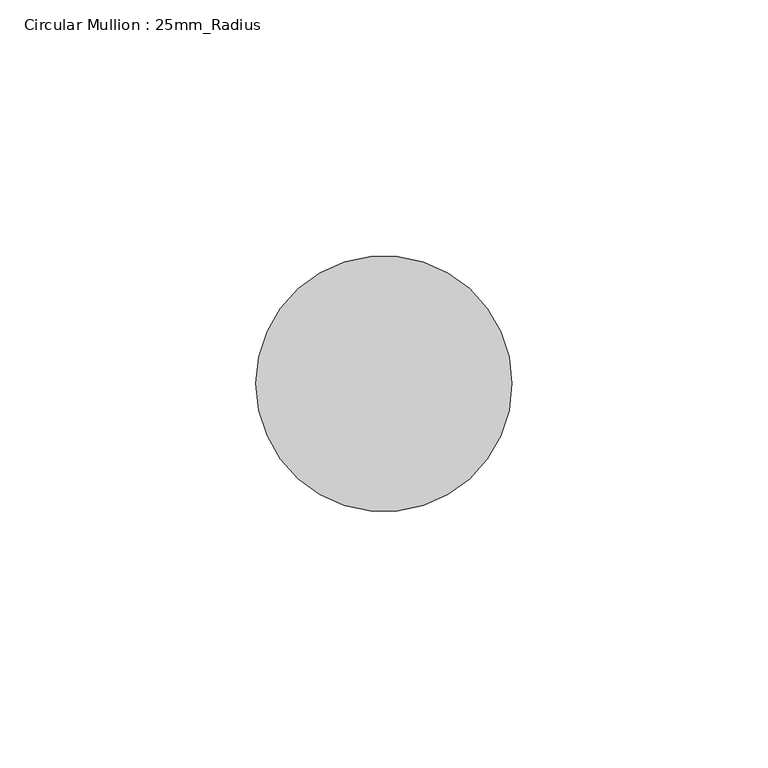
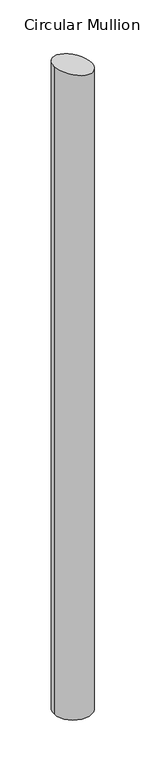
"""IFC4 building model written with IfcOpenShell, lengths in millimetres: member geometry, Circular Mullion : 25mm_Radius."""

from ifc_helpers import new_model, si_unit, frame, origin, place, context, project, spatial, circle_curve, ellipse_curve, source, transform, mapped, element, save
from ifc_brep_helpers import plane_surface, cylinder_surface, advanced_brep


def circular_mullion_25mm_radius_deb63ca0(model_context):
    return source(origin(), model_context, "Body", "AdvancedBrep", [
        advanced_brep(
        [(0.0, 0.0, -899.9972154), (-50.0, 0.0, -899.9972154), (-50.0, 0.0, 12.240473), (0.0, 0.0, 0.0)],
        [
            (0, 1, circle_curve(frame((-25.0, 0.0, -899.9972154), z_axis=(0.0, 0.0, -1.0), x_axis=(1.0, 0.0, 0.0)), 25.0)),
            (1, 0, circle_curve(frame((-25.0, 0.0, -899.9972154), z_axis=(0.0, 0.0, -1.0), x_axis=(1.0, 0.0, 0.0)), 25.0)),
            (2, 3, ellipse_curve(frame((-25.0, 0.0, 6.1202365), z_axis=(-0.23778763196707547, 0.0, -0.971317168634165), x_axis=(-0.9713171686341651, 0.0, 0.23778763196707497)), 25.7382458, 25.0)),
            (3, 0),
            (1, 2),
            (3, 2, ellipse_curve(frame((-25.0, 0.0, 6.1202365), z_axis=(-0.23778763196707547, 0.0, -0.971317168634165), x_axis=(-0.9713171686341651, 0.0, 0.23778763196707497)), 25.7382458, 25.0)),
        ],
        [
            plane_surface(frame((0.0, -50.0, -899.9972154), z_axis=(0.0, 0.0, -1.0), x_axis=(-1.0, 0.0, 0.0))),
            cylinder_surface(frame((-25.0, 0.0, 0.0), z_axis=(0.0, 0.0, 1.0), x_axis=(1.0, 0.0, 0.0)), 25.0),
            plane_surface(frame((0.0, 304.8, 0.0), z_axis=(0.23778763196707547, 0.0, 0.971317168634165), x_axis=(0.971317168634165, 0.0, -0.23778763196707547))),
        ],
        [
            (0, [[1, 2]]),
            (1, [[3, 4, -2, 5]]),
            (1, [[6, -5, -1, -4]]),
            (2, [[-3, -6]]),
        ],
    ),
    ])


if __name__ == "__main__":
    model = new_model("IFC4")
    model_context = context("Model", 3, world=origin())
    ifc_project = project(units=[si_unit("LENGTHUNIT", "METRE", prefix="MILLI")], contexts=[model_context])
    site = spatial("IfcSite", under=ifc_project)
    building = spatial("IfcBuilding", under=site)
    placement = place(None, origin())
    circular_mullion_25mm_radius_shape = circular_mullion_25mm_radius_deb63ca0(model_context)
    element("IfcMember", 1, ObjectType="Circular Mullion : 25mm_Radius", at=placement, inside=building, context=model_context, shape_type="MappedRepresentation", body=[
        mapped(circular_mullion_25mm_radius_shape, transform((0.0, 0.0, 0.0), x_axis=(1.0, 0.0, 0.0), y_axis=(0.0, 1.0, 0.0), z_axis=(0.0, 0.0, 1.0))),
    ])
    save(model, "model.ifc")
